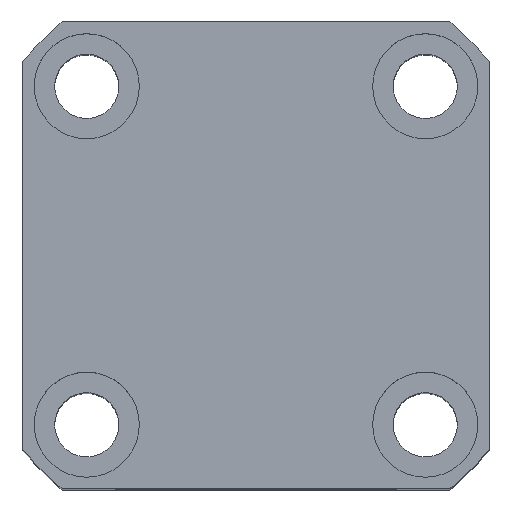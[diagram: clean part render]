
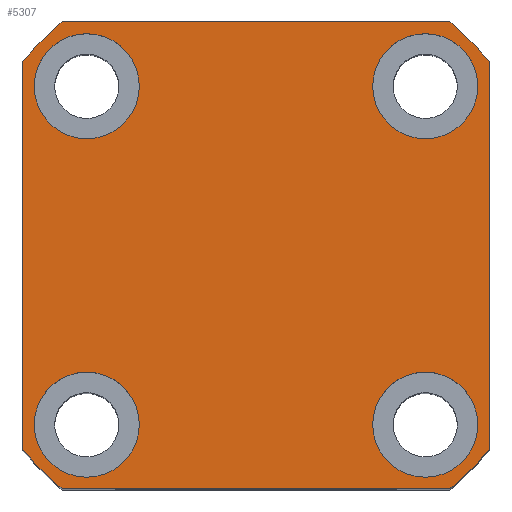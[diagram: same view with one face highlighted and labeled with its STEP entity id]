
A CAD part, top view. The second image highlights one B-rep face of the part: STEP entity #5307.
In plain terms, the highlighted planar face has unit normal (0, 0, 1).
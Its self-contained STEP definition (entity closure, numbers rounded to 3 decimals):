
#2639=PLANE('',#11856);
#3380=LINE('',#20614,#4215);
#3388=LINE('',#21347,#4223);
#3392=LINE('',#21359,#4227);
#3396=LINE('',#21371,#4231);
#4215=VECTOR('',#12448,1.);
#4223=VECTOR('',#12612,1.);
#4227=VECTOR('',#12624,1.);
#4231=VECTOR('',#12636,1.);
#5307=ADVANCED_FACE('',(#5942,#5943,#5944,#5945,#5946),#2639,.T.);
#5763=CIRCLE('',#11805,9.);
#5765=CIRCLE('',#11808,9.);
#5767=CIRCLE('',#11811,9.);
#5769=CIRCLE('',#11814,9.);
#5788=CIRCLE('',#11842,52.);
#5790=CIRCLE('',#11846,52.);
#5792=CIRCLE('',#11850,52.);
#5794=CIRCLE('',#11854,52.);
#5942=FACE_BOUND('',#6221,.T.);
#5943=FACE_BOUND('',#6222,.T.);
#5944=FACE_BOUND('',#6223,.T.);
#5945=FACE_BOUND('',#6224,.T.);
#5946=FACE_BOUND('',#6225,.T.);
#6221=EDGE_LOOP('',(#7151));
#6222=EDGE_LOOP('',(#7152));
#6223=EDGE_LOOP('',(#7153));
#6224=EDGE_LOOP('',(#7154));
#6225=EDGE_LOOP('',(#7155,#7156,#7157,#7158,#7159,#7160,#7161,#7162));
#7151=ORIENTED_EDGE('',*,*,#10302,.F.);
#7152=ORIENTED_EDGE('',*,*,#10304,.F.);
#7153=ORIENTED_EDGE('',*,*,#10306,.F.);
#7154=ORIENTED_EDGE('',*,*,#10308,.F.);
#7155=ORIENTED_EDGE('',*,*,#10328,.T.);
#7156=ORIENTED_EDGE('',*,*,#10331,.T.);
#7157=ORIENTED_EDGE('',*,*,#10334,.T.);
#7158=ORIENTED_EDGE('',*,*,#10337,.T.);
#7159=ORIENTED_EDGE('',*,*,#10340,.T.);
#7160=ORIENTED_EDGE('',*,*,#10343,.T.);
#7161=ORIENTED_EDGE('',*,*,#10345,.T.);
#7162=ORIENTED_EDGE('',*,*,#10230,.T.);
#9303=VERTEX_POINT('',#20613);
#9304=VERTEX_POINT('',#20615);
#9372=VERTEX_POINT('',#21278);
#9374=VERTEX_POINT('',#21283);
#9376=VERTEX_POINT('',#21288);
#9378=VERTEX_POINT('',#21293);
#9397=VERTEX_POINT('',#21340);
#9399=VERTEX_POINT('',#21346);
#9401=VERTEX_POINT('',#21352);
#9403=VERTEX_POINT('',#21358);
#9405=VERTEX_POINT('',#21364);
#9407=VERTEX_POINT('',#21370);
#10230=EDGE_CURVE('',#9304,#9303,#3380,.T.);
#10302=EDGE_CURVE('',#9372,#9372,#5763,.T.);
#10304=EDGE_CURVE('',#9374,#9374,#5765,.T.);
#10306=EDGE_CURVE('',#9376,#9376,#5767,.T.);
#10308=EDGE_CURVE('',#9378,#9378,#5769,.T.);
#10328=EDGE_CURVE('',#9303,#9397,#5788,.T.);
#10331=EDGE_CURVE('',#9397,#9399,#3388,.T.);
#10334=EDGE_CURVE('',#9399,#9401,#5790,.T.);
#10337=EDGE_CURVE('',#9401,#9403,#3392,.T.);
#10340=EDGE_CURVE('',#9403,#9405,#5792,.T.);
#10343=EDGE_CURVE('',#9405,#9407,#3396,.T.);
#10345=EDGE_CURVE('',#9407,#9304,#5794,.T.);
#11805=AXIS2_PLACEMENT_3D('',#21277,#12531,#12532);
#11808=AXIS2_PLACEMENT_3D('',#21282,#12537,#12538);
#11811=AXIS2_PLACEMENT_3D('',#21287,#12543,#12544);
#11814=AXIS2_PLACEMENT_3D('',#21292,#12549,#12550);
#11842=AXIS2_PLACEMENT_3D('',#21341,#12606,#12607);
#11846=AXIS2_PLACEMENT_3D('',#21353,#12618,#12619);
#11850=AXIS2_PLACEMENT_3D('',#21365,#12630,#12631);
#11854=AXIS2_PLACEMENT_3D('',#21374,#12641,#12642);
#11856=AXIS2_PLACEMENT_3D('',#21376,#12645,#12646);
#12448=DIRECTION('',(1.,0.,0.));
#12531=DIRECTION('',(0.,0.,1.));
#12532=DIRECTION('',(1.,0.,0.));
#12537=DIRECTION('',(0.,0.,1.));
#12538=DIRECTION('',(1.,0.,0.));
#12543=DIRECTION('',(0.,0.,1.));
#12544=DIRECTION('',(1.,0.,0.));
#12549=DIRECTION('',(0.,0.,1.));
#12550=DIRECTION('',(1.,0.,0.));
#12606=DIRECTION('',(0.,0.,1.));
#12607=DIRECTION('',(1.,0.,0.));
#12612=DIRECTION('',(0.,1.,0.));
#12618=DIRECTION('',(0.,0.,1.));
#12619=DIRECTION('',(1.,0.,0.));
#12624=DIRECTION('',(-1.,0.,0.));
#12630=DIRECTION('',(0.,0.,1.));
#12631=DIRECTION('',(1.,0.,0.));
#12636=DIRECTION('',(0.,-1.,0.));
#12641=DIRECTION('',(0.,0.,1.));
#12642=DIRECTION('',(1.,0.,0.));
#12645=DIRECTION('',(0.,0.,1.));
#12646=DIRECTION('',(-1.,0.,0.));
#20613=CARTESIAN_POINT('',(33.226,-40.,55.));
#20614=CARTESIAN_POINT('',(-33.226,-40.,55.));
#20615=CARTESIAN_POINT('',(-33.226,-40.,55.));
#21277=CARTESIAN_POINT('',(29.,-29.,55.));
#21278=CARTESIAN_POINT('',(38.,-29.,55.));
#21282=CARTESIAN_POINT('',(-29.,-29.,55.));
#21283=CARTESIAN_POINT('',(-20.,-29.,55.));
#21287=CARTESIAN_POINT('',(-29.,29.,55.));
#21288=CARTESIAN_POINT('',(-20.,29.,55.));
#21292=CARTESIAN_POINT('',(29.,29.,55.));
#21293=CARTESIAN_POINT('',(38.,29.,55.));
#21340=CARTESIAN_POINT('',(40.,-33.226,55.));
#21341=CARTESIAN_POINT('',(0.,0.,55.));
#21346=CARTESIAN_POINT('',(40.,33.226,55.));
#21347=CARTESIAN_POINT('',(40.,33.226,55.));
#21352=CARTESIAN_POINT('',(33.226,40.,55.));
#21353=CARTESIAN_POINT('',(0.,0.,55.));
#21358=CARTESIAN_POINT('',(-33.226,40.,55.));
#21359=CARTESIAN_POINT('',(-33.226,40.,55.));
#21364=CARTESIAN_POINT('',(-40.,33.226,55.));
#21365=CARTESIAN_POINT('',(0.,0.,55.));
#21370=CARTESIAN_POINT('',(-40.,-33.226,55.));
#21371=CARTESIAN_POINT('',(-40.,33.226,55.));
#21374=CARTESIAN_POINT('',(0.,0.,55.));
#21376=CARTESIAN_POINT('',(0.,0.,55.));
